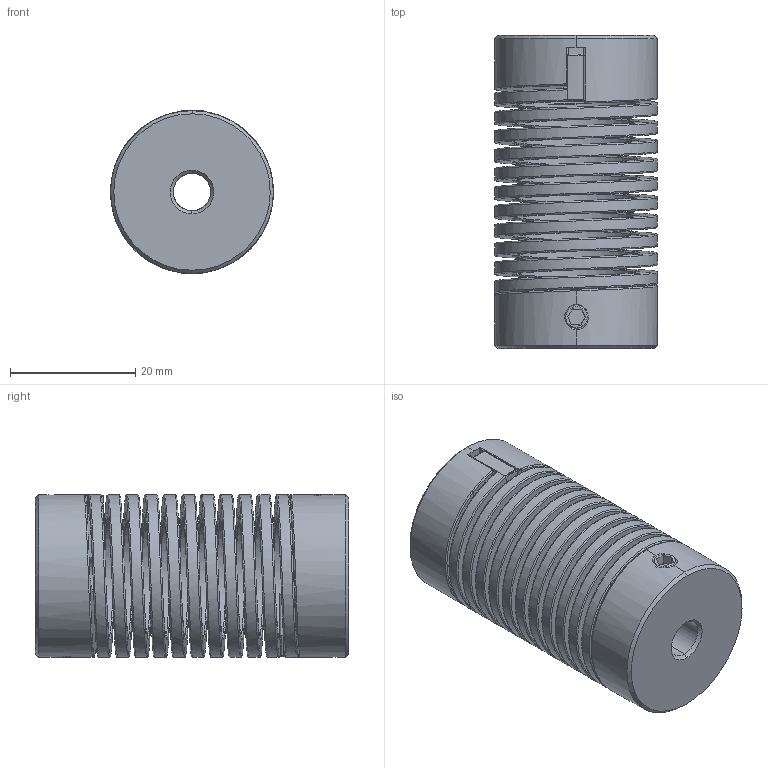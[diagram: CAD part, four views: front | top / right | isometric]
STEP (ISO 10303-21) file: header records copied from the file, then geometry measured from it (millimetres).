
FILE_DESCRIPTION (( 'STEP AP214' ), '1' );
FILE_NAME ('9401.6_6.STEP', '2017-08-09T08:12:41', ( '' ), ( '' ), 'SwSTEP 2.0', 'SolidWorks 2017', '' );
FILE_SCHEMA (( 'AUTOMOTIVE_DESIGN' ));
Length unit declared in the file: millimetre
Products named in the file (5): GRA.4X6; 9401.6_6; GIU.9401.M; GIU.9401.6_GRA; GIU.9401.6
Assembly tree (5 placements, depth 3):
  9401.6_6
    GIU.9401.M
    GIU.9401.6_GRA  x2
      GIU.9401.6
      GRA.4X6
Bounding box: 26 x 50 x 26.01 mm (x, y, z)
Volume: 13887.2 mm3; surface area: 11919.1 mm2
Topology: 5 solids, 5 shells, 156 faces, 385 edges, 229 vertices
Faces by surface type: plane 49, cylinder 38, bspline 37, cone 20, torus 8, sphere 4
Entity records: 11219 total; most frequent: CARTESIAN_POINT 8782, ORIENTED_EDGE 502, DIRECTION 390, EDGE_CURVE 251, AXIS2_PLACEMENT_3D 150, VERTEX_POINT 150, EDGE_LOOP 107, FACE_OUTER_BOUND 105
